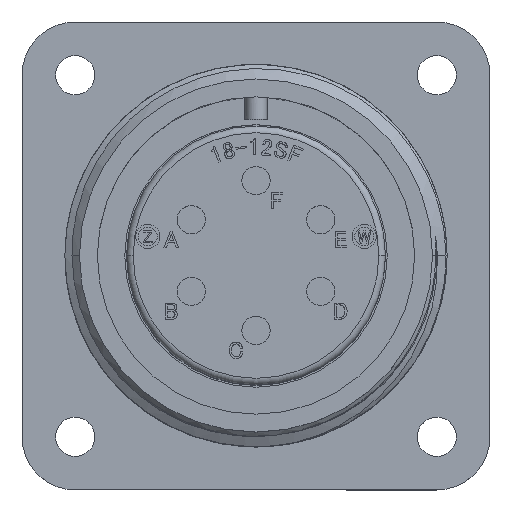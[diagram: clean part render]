
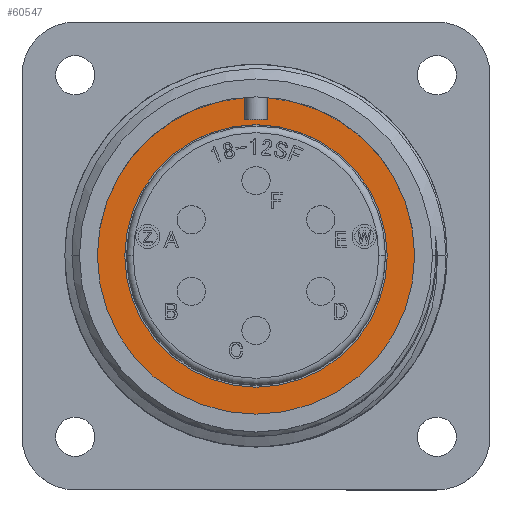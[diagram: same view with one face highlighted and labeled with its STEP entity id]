
A CAD part, top view. The second image highlights one B-rep face of the part: STEP entity #60547.
In plain terms, the highlighted planar face has unit normal (0, 0, 1).
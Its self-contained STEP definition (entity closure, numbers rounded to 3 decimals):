
#1128 = CARTESIAN_POINT ( 'NONE',  ( 9.795, 0., -19.18 ) ) ;
#2830 = EDGE_CURVE ( 'NONE', #59969, #36520, #46405, .T. ) ;
#3168 = CARTESIAN_POINT ( 'NONE',  ( 0.825, 10.16, -19.18 ) ) ;
#3429 = VECTOR ( 'NONE', #14217, 1000. ) ;
#4157 = EDGE_CURVE ( 'NONE', #59969, #60354, #53826, .T. ) ;
#5021 = EDGE_CURVE ( 'NONE', #19320, #53068, #40965, .T. ) ;
#5113 = ORIENTED_EDGE ( 'NONE', *, *, #50848, .T. ) ;
#7383 = CARTESIAN_POINT ( 'NONE',  ( 0., 11.84, -19.18 ) ) ;
#7789 = CIRCLE ( 'NONE', #53127, 9.795 ) ;
#10197 = CARTESIAN_POINT ( 'NONE',  ( -11.84, 0., -19.18 ) ) ;
#11108 = VECTOR ( 'NONE', #53057, 1000. ) ;
#13224 = DIRECTION ( 'NONE',  ( 0., 0., 1. ) ) ;
#13807 = DIRECTION ( 'NONE',  ( 0., 0., 1. ) ) ;
#13829 = AXIS2_PLACEMENT_3D ( 'NONE', #19990, #53611, #24806 ) ;
#14217 = DIRECTION ( 'NONE',  ( 0., -1., 0. ) ) ;
#14608 = CARTESIAN_POINT ( 'NONE',  ( -0.825, 500000., -19.18 ) ) ;
#14868 = ORIENTED_EDGE ( 'NONE', *, *, #39971, .T. ) ;
#15956 = AXIS2_PLACEMENT_3D ( 'NONE', #42585, #13807, #47410 ) ;
#16782 = AXIS2_PLACEMENT_3D ( 'NONE', #46630, #17837, #51462 ) ;
#17011 = PLANE ( 'NONE',  #44070 ) ;
#17273 = AXIS2_PLACEMENT_3D ( 'NONE', #52207, #23425, #57035 ) ;
#17837 = DIRECTION ( 'NONE',  ( 0., 0., 1. ) ) ;
#19320 = VERTEX_POINT ( 'NONE', #44744 ) ;
#19520 = FACE_OUTER_BOUND ( 'NONE', #44414, .T. ) ;
#19572 = EDGE_CURVE ( 'NONE', #53068, #19320, #7789, .T. ) ;
#19990 = CARTESIAN_POINT ( 'NONE',  ( 0., 0., -19.18 ) ) ;
#20222 = VECTOR ( 'NONE', #62238, 1000. ) ;
#21850 = DIRECTION ( 'NONE',  ( 1., 0., 0. ) ) ;
#23425 = DIRECTION ( 'NONE',  ( 0., 0., 1. ) ) ;
#24759 = EDGE_LOOP ( 'NONE', ( #36746, #57118 ) ) ;
#24771 = CIRCLE ( 'NONE', #13829, 11.84 ) ;
#24806 = DIRECTION ( 'NONE',  ( 1., 0., 0. ) ) ;
#25792 = EDGE_CURVE ( 'NONE', #41748, #36520, #44276, .T. ) ;
#25972 = VERTEX_POINT ( 'NONE', #50010 ) ;
#28617 = ORIENTED_EDGE ( 'NONE', *, *, #53884, .T. ) ;
#30050 = CARTESIAN_POINT ( 'NONE',  ( -0.825, 10.16, -19.18 ) ) ;
#30437 = LINE ( 'NONE', #62086, #3429 ) ;
#32786 = ORIENTED_EDGE ( 'NONE', *, *, #2830, .F. ) ;
#32905 = ORIENTED_EDGE ( 'NONE', *, *, #25792, .T. ) ;
#36520 = VERTEX_POINT ( 'NONE', #30050 ) ;
#36746 = ORIENTED_EDGE ( 'NONE', *, *, #19572, .F. ) ;
#39971 = EDGE_CURVE ( 'NONE', #60354, #50268, #24771, .T. ) ;
#40965 = CIRCLE ( 'NONE', #16782, 9.795 ) ;
#41748 = VERTEX_POINT ( 'NONE', #3168 ) ;
#41981 = CARTESIAN_POINT ( 'NONE',  ( 0., 0., -19.18 ) ) ;
#42585 = CARTESIAN_POINT ( 'NONE',  ( 0., 0., -19.18 ) ) ;
#44070 = AXIS2_PLACEMENT_3D ( 'NONE', #7383, #50648, #21850 ) ;
#44276 = LINE ( 'NONE', #57422, #20222 ) ;
#44414 = EDGE_LOOP ( 'NONE', ( #45503, #14868, #5113, #28617, #32905, #32786 ) ) ;
#44744 = CARTESIAN_POINT ( 'NONE',  ( -9.795, 0., -19.18 ) ) ;
#45503 = ORIENTED_EDGE ( 'NONE', *, *, #4157, .T. ) ;
#46405 = LINE ( 'NONE', #14608, #11108 ) ;
#46630 = CARTESIAN_POINT ( 'NONE',  ( 0., 0., -19.18 ) ) ;
#46811 = DIRECTION ( 'NONE',  ( 1., 0., 0. ) ) ;
#47212 = CIRCLE ( 'NONE', #17273, 11.84 ) ;
#47410 = DIRECTION ( 'NONE',  ( 1., 0., 0. ) ) ;
#50010 = CARTESIAN_POINT ( 'NONE',  ( 0.825, 11.811, -19.18 ) ) ;
#50268 = VERTEX_POINT ( 'NONE', #57725 ) ;
#50290 = CARTESIAN_POINT ( 'NONE',  ( -0.825, 11.811, -19.18 ) ) ;
#50648 = DIRECTION ( 'NONE',  ( 0., 0., 1. ) ) ;
#50848 = EDGE_CURVE ( 'NONE', #50268, #25972, #47212, .T. ) ;
#51462 = DIRECTION ( 'NONE',  ( 1., 0., 0. ) ) ;
#52207 = CARTESIAN_POINT ( 'NONE',  ( 0., 0., -19.18 ) ) ;
#53057 = DIRECTION ( 'NONE',  ( 0., -1., 0. ) ) ;
#53068 = VERTEX_POINT ( 'NONE', #1128 ) ;
#53127 = AXIS2_PLACEMENT_3D ( 'NONE', #41981, #13224, #46811 ) ;
#53611 = DIRECTION ( 'NONE',  ( 0., 0., 1. ) ) ;
#53826 = CIRCLE ( 'NONE', #15956, 11.84 ) ;
#53884 = EDGE_CURVE ( 'NONE', #25972, #41748, #30437, .T. ) ;
#57035 = DIRECTION ( 'NONE',  ( 1., 0., 0. ) ) ;
#57118 = ORIENTED_EDGE ( 'NONE', *, *, #5021, .F. ) ;
#57422 = CARTESIAN_POINT ( 'NONE',  ( 0.825, 10.16, -19.18 ) ) ;
#57725 = CARTESIAN_POINT ( 'NONE',  ( 11.84, 0., -19.18 ) ) ;
#57850 = FACE_BOUND ( 'NONE', #24759, .T. ) ;
#59969 = VERTEX_POINT ( 'NONE', #50290 ) ;
#60354 = VERTEX_POINT ( 'NONE', #10197 ) ;
#60547 = ADVANCED_FACE ( 'NONE', ( #57850, #19520 ), #17011, .T. ) ;
#62086 = CARTESIAN_POINT ( 'NONE',  ( 0.825, 500000., -19.18 ) ) ;
#62238 = DIRECTION ( 'NONE',  ( -1., 0., 0. ) ) ;
